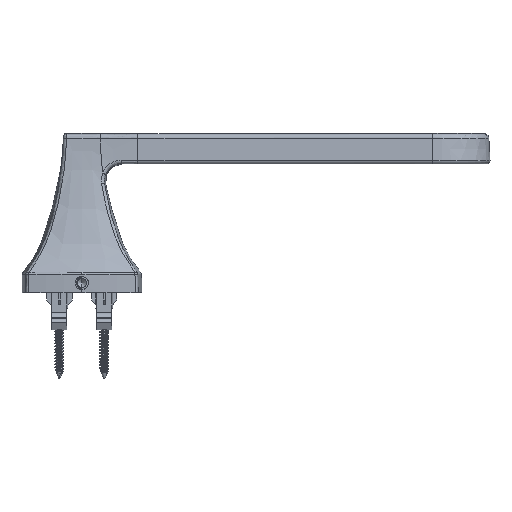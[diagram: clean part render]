
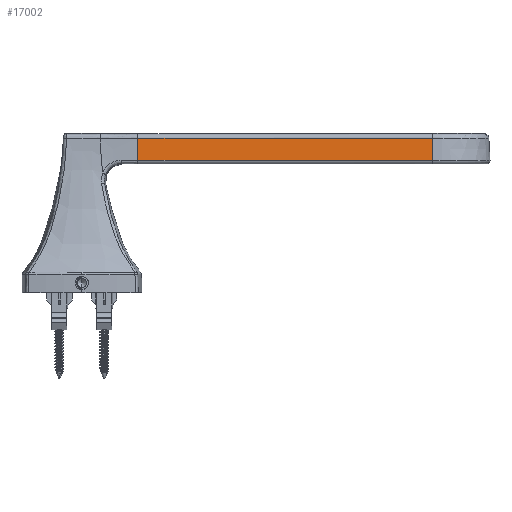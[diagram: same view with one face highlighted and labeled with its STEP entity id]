
A CAD part, front view. The second image highlights one B-rep face of the part: STEP entity #17002.
In plain terms, the highlighted planar face has unit normal (0, -0.999, 0.05).
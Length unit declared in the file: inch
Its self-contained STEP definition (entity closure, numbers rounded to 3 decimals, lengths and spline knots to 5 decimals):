
#805 = VERTEX_POINT ( 'NONE', #13458 ) ;
#1584 = CARTESIAN_POINT ( 'NONE',  ( 1., -0.35163, 2.36303 ) ) ;
#5255 = EDGE_LOOP ( 'NONE', ( #23359, #22537, #25669, #16566 ) ) ;
#7350 = VECTOR ( 'NONE', #16314, 39.37008 ) ;
#7353 = CARTESIAN_POINT ( 'NONE',  ( 6.25, -0.33171, 2.75745 ) ) ;
#8016 = CARTESIAN_POINT ( 'NONE',  ( 1., -0.32704, 2.85 ) ) ;
#8019 = FACE_OUTER_BOUND ( 'NONE', #5255, .T. ) ;
#8061 = VERTEX_POINT ( 'NONE', #1584 ) ;
#8077 = LINE ( 'NONE', #10665, #25503 ) ;
#8119 = DIRECTION ( 'NONE',  ( 0., -0.05, -0.999 ) ) ;
#8287 = CARTESIAN_POINT ( 'NONE',  ( 1., -0.32704, 2.85 ) ) ;
#9110 = EDGE_CURVE ( 'NONE', #21918, #805, #8077, .T. ) ;
#10160 = VECTOR ( 'NONE', #8119, 39.37008 ) ;
#10183 = EDGE_CURVE ( 'NONE', #8061, #21918, #18351, .T. ) ;
#10193 = PLANE ( 'NONE',  #20110 ) ;
#10665 = CARTESIAN_POINT ( 'NONE',  ( 1., -0.33171, 2.75745 ) ) ;
#10747 = VERTEX_POINT ( 'NONE', #20984 ) ;
#13458 = CARTESIAN_POINT ( 'NONE',  ( 6.25, -0.33171, 2.75745 ) ) ;
#14436 = VECTOR ( 'NONE', #15402, 39.37008 ) ;
#15402 = DIRECTION ( 'NONE',  ( -1., 0., 0. ) ) ;
#16314 = DIRECTION ( 'NONE',  ( 0., 0.05, 0.999 ) ) ;
#16566 = ORIENTED_EDGE ( 'NONE', *, *, #23303, .F. ) ;
#16723 = EDGE_CURVE ( 'NONE', #10747, #8061, #17070, .T. ) ;
#17002 = ADVANCED_FACE ( 'NONE', ( #8019 ), #10193, .T. ) ;
#17070 = LINE ( 'NONE', #20880, #14436 ) ;
#18351 = LINE ( 'NONE', #8016, #7350 ) ;
#18410 = DIRECTION ( 'NONE',  ( 1., 0., 0. ) ) ;
#19132 = CARTESIAN_POINT ( 'NONE',  ( 1., -0.33171, 2.75745 ) ) ;
#20110 = AXIS2_PLACEMENT_3D ( 'NONE', #8287, #24595, #22564 ) ;
#20880 = CARTESIAN_POINT ( 'NONE',  ( 6.25, -0.35163, 2.36303 ) ) ;
#20984 = CARTESIAN_POINT ( 'NONE',  ( 6.25, -0.35163, 2.36303 ) ) ;
#21918 = VERTEX_POINT ( 'NONE', #19132 ) ;
#22537 = ORIENTED_EDGE ( 'NONE', *, *, #10183, .F. ) ;
#22564 = DIRECTION ( 'NONE',  ( 1., 0., 0. ) ) ;
#23303 = EDGE_CURVE ( 'NONE', #805, #10747, #26000, .T. ) ;
#23359 = ORIENTED_EDGE ( 'NONE', *, *, #9110, .F. ) ;
#24595 = DIRECTION ( 'NONE',  ( 0., -0.999, 0.05 ) ) ;
#25503 = VECTOR ( 'NONE', #18410, 39.37008 ) ;
#25669 = ORIENTED_EDGE ( 'NONE', *, *, #16723, .F. ) ;
#26000 = LINE ( 'NONE', #7353, #10160 ) ;
